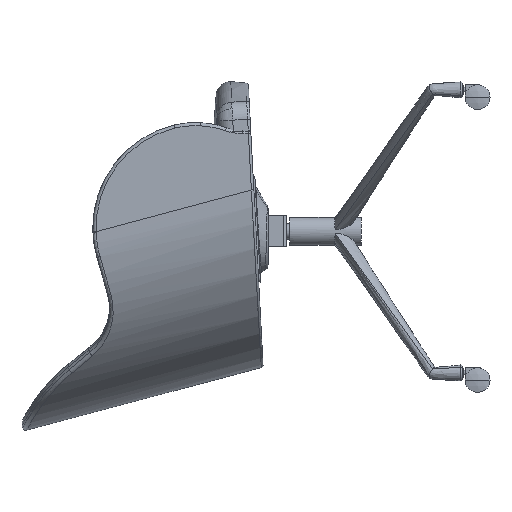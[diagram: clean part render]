
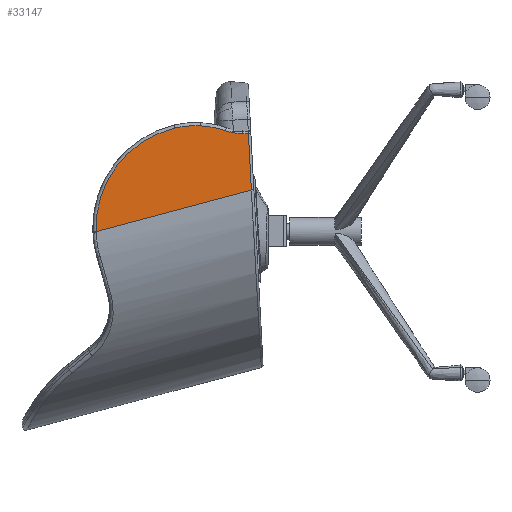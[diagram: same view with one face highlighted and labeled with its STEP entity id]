
A CAD part, left-side view. The second image highlights one B-rep face of the part: STEP entity #33147.
In plain terms, the highlighted planar face has unit normal (-1, 0, 0).
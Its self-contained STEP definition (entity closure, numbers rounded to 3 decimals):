
#338 = CIRCLE ( 'NONE', #3594, 85. ) ;
#354 = CIRCLE ( 'NONE', #19907, 145. ) ;
#478 = CARTESIAN_POINT ( 'NONE',  ( -280., 633.635, -0.247 ) ) ;
#844 = ORIENTED_EDGE ( 'NONE', *, *, #13190, .T. ) ;
#963 = CARTESIAN_POINT ( 'NONE',  ( -280., 311.524, 157.145 ) ) ;
#1927 = ORIENTED_EDGE ( 'NONE', *, *, #16865, .T. ) ;
#2310 = DIRECTION ( 'NONE',  ( 0., -0.052, 0.999 ) ) ;
#3594 = AXIS2_PLACEMENT_3D ( 'NONE', #7695, #25884, #15206 ) ;
#3657 = VECTOR ( 'NONE', #4107, 1000. ) ;
#3951 = DIRECTION ( 'NONE',  ( 0., -0.052, 0.999 ) ) ;
#4107 = DIRECTION ( 'NONE',  ( 0., 1., 0. ) ) ;
#5140 = DIRECTION ( 'NONE',  ( 0., -0.052, 0.999 ) ) ;
#5461 = CARTESIAN_POINT ( 'NONE',  ( -280., 397.43, 157.145 ) ) ;
#5915 = CARTESIAN_POINT ( 'NONE',  ( -280., 388.596, 157.145 ) ) ;
#6574 = ORIENTED_EDGE ( 'NONE', *, *, #28214, .F. ) ;
#6577 = CARTESIAN_POINT ( 'NONE',  ( -280., 425.509, 161.916 ) ) ;
#7245 = DIRECTION ( 'NONE',  ( -1., 0., 0. ) ) ;
#7613 = ORIENTED_EDGE ( 'NONE', *, *, #22313, .T. ) ;
#7695 = CARTESIAN_POINT ( 'NONE',  ( -280., 397.43, 242.145 ) ) ;
#9145 = VERTEX_POINT ( 'NONE', #13484 ) ;
#9373 = DIRECTION ( 'NONE',  ( -1., 0., 0. ) ) ;
#10404 = AXIS2_PLACEMENT_3D ( 'NONE', #19502, #9373, #3951 ) ;
#10691 = DIRECTION ( 'NONE',  ( -1., 0., 0. ) ) ;
#11722 = EDGE_LOOP ( 'NONE', ( #6574, #844, #7613, #1927, #30259, #24363, #20647 ) ) ;
#11729 = VERTEX_POINT ( 'NONE', #6577 ) ;
#12648 = VECTOR ( 'NONE', #17284, 1000. ) ;
#13190 = EDGE_CURVE ( 'NONE', #9145, #26311, #23046, .T. ) ;
#13482 = FACE_OUTER_BOUND ( 'NONE', #11722, .T. ) ;
#13484 = CARTESIAN_POINT ( 'NONE',  ( -280., 383.855, 66.681 ) ) ;
#14661 = CARTESIAN_POINT ( 'NONE',  ( -280., 388.585, 156.935 ) ) ;
#15206 = DIRECTION ( 'NONE',  ( 0., -0.052, 0.999 ) ) ;
#15236 = VERTEX_POINT ( 'NONE', #32521 ) ;
#15544 = VERTEX_POINT ( 'NONE', #478 ) ;
#15760 = CARTESIAN_POINT ( 'NONE',  ( -280., 311.524, 86.063 ) ) ;
#16865 = EDGE_CURVE ( 'NONE', #25454, #11729, #338, .T. ) ;
#17284 = DIRECTION ( 'NONE',  ( 0., 0.052, 0.999 ) ) ;
#17359 = EDGE_CURVE ( 'NONE', #11729, #15236, #19206, .T. ) ;
#17773 = CARTESIAN_POINT ( 'NONE',  ( -280., 473.409, 25.057 ) ) ;
#18672 = AXIS2_PLACEMENT_3D ( 'NONE', #17773, #25986, #23886 ) ;
#19206 = CIRCLE ( 'NONE', #18672, 145. ) ;
#19288 = VECTOR ( 'NONE', #24103, 1000. ) ;
#19502 = CARTESIAN_POINT ( 'NONE',  ( -280., 468.738, 5.61 ) ) ;
#19835 = LINE ( 'NONE', #963, #3657 ) ;
#19907 = AXIS2_PLACEMENT_3D ( 'NONE', #25791, #7245, #5140 ) ;
#19947 = VERTEX_POINT ( 'NONE', #22838 ) ;
#20647 = ORIENTED_EDGE ( 'NONE', *, *, #23252, .T. ) ;
#22313 = EDGE_CURVE ( 'NONE', #26311, #25454, #19835, .T. ) ;
#22838 = CARTESIAN_POINT ( 'NONE',  ( -280., 507.271, 166.047 ) ) ;
#23046 = LINE ( 'NONE', #14661, #12648 ) ;
#23252 = EDGE_CURVE ( 'NONE', #19947, #15544, #32169, .T. ) ;
#23761 = LINE ( 'NONE', #26741, #19288 ) ;
#23886 = DIRECTION ( 'NONE',  ( 0., -0.052, 0.999 ) ) ;
#24103 = DIRECTION ( 'NONE',  ( 0., 0.966, -0.259 ) ) ;
#24363 = ORIENTED_EDGE ( 'NONE', *, *, #29178, .T. ) ;
#25454 = VERTEX_POINT ( 'NONE', #5461 ) ;
#25791 = CARTESIAN_POINT ( 'NONE',  ( -280., 473.409, 25.057 ) ) ;
#25884 = DIRECTION ( 'NONE',  ( 1., 0., 0. ) ) ;
#25986 = DIRECTION ( 'NONE',  ( -1., 0., 0. ) ) ;
#26221 = AXIS2_PLACEMENT_3D ( 'NONE', #15760, #10691, #2310 ) ;
#26311 = VERTEX_POINT ( 'NONE', #5915 ) ;
#26741 = CARTESIAN_POINT ( 'NONE',  ( -280., 311.524, 86.063 ) ) ;
#28214 = EDGE_CURVE ( 'NONE', #9145, #15544, #23761, .T. ) ;
#28894 = PLANE ( 'NONE',  #26221 ) ;
#29178 = EDGE_CURVE ( 'NONE', #15236, #19947, #354, .T. ) ;
#30259 = ORIENTED_EDGE ( 'NONE', *, *, #17359, .T. ) ;
#32169 = CIRCLE ( 'NONE', #10404, 165. ) ;
#32521 = CARTESIAN_POINT ( 'NONE',  ( -280., 465.82, 169.858 ) ) ;
#33147 = ADVANCED_FACE ( 'NONE', ( #13482 ), #28894, .T. ) ;
